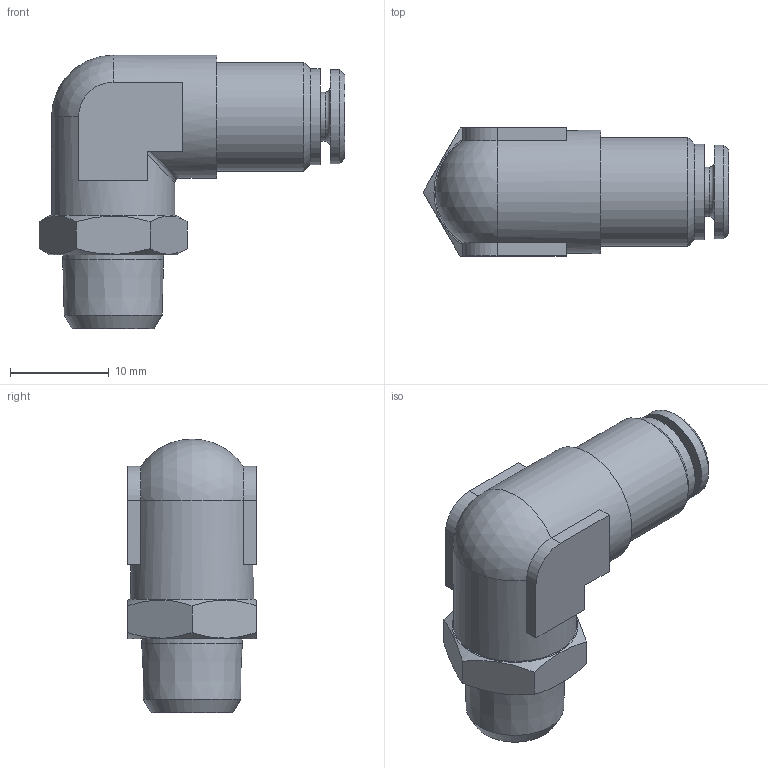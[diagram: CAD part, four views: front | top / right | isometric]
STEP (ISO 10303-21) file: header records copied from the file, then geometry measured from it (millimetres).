
FILE_DESCRIPTION(/* description */ (''),/* implementation_level */ '2;1');
FILE_NAME(/* name */ 'H220410_HDS022K_4_M10X1_08.05.17',/* time_stamp */ '2017-05-08T11:49:35+02:00',/* author */ (''),/* organization */ (''),/* preprocessor_version */ 'ST-DEVELOPER v16.5',/* originating_system */ 'HiCAD 2016 2102.1 Build 498',/* authorisation */ '');
FILE_SCHEMA (('AUTOMOTIVE_DESIGN { 1 0 10303 214 1 1 1 1 }'));
Length unit declared in the file: millimetre
Products named in the file (4): Root; ONLINE_DR4_HDS_26.11.15; ROTATIONSTEIL_0; RIVOLUZIONE_0
Assembly tree (3 placements, depth 2):
  Root
    ONLINE_DR4_HDS_26.11.15
    ROTATIONSTEIL_0
    RIVOLUZIONE_0
Bounding box: 31.01 x 13 x 27.75 mm (x, y, z)
Volume: 3902.4 mm3; surface area: 3722 mm2
Topology: 3 solids, 3 shells, 79 faces, 170 edges, 105 vertices
Faces by surface type: plane 35, cylinder 21, cone 18, torus 3, sphere 1, bspline 1
Full cylindrical faces by diameter (mm): 3 x1, 4 x1, 4.2 x2, 5 x1, 6 x1, 7.3 x1, 8 x1, 8.3 x1, 9 x2, 9.5 x1, 9.7 x1, 10.1 x2, 10.219 x1, 11 x1, 12.5 x2
Entity records: 3645 total; most frequent: CARTESIAN_POINT 786, DIRECTION 358, PRESENTATION_STYLE_ASSIGNMENT 247, COLOUR_RGB 246, DRAUGHTING_PRE_DEFINED_CURVE_FONT 244, CURVE_STYLE 244, OVER_RIDING_STYLED_ITEM 244, ORIENTED_EDGE 244
